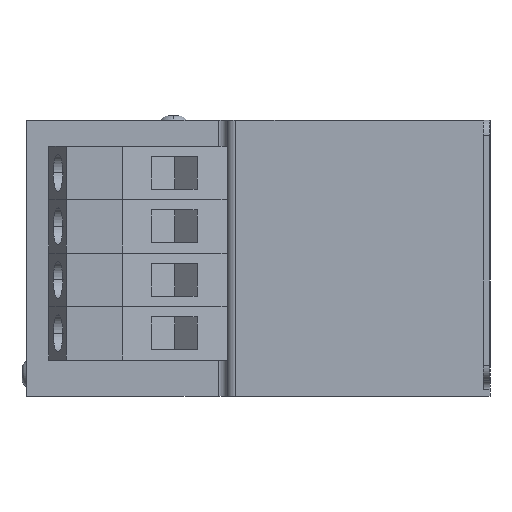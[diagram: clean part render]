
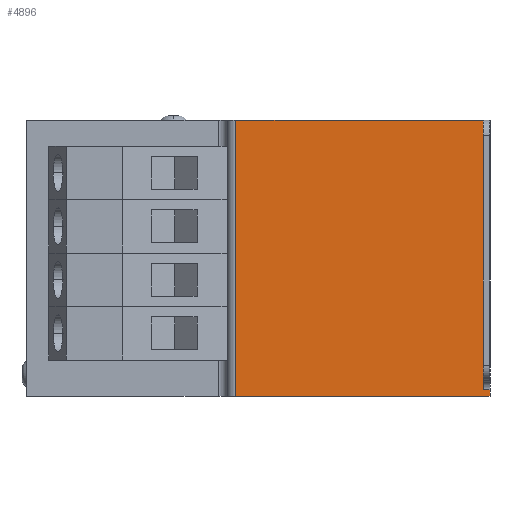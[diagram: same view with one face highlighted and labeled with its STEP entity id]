
A CAD part, left-side view. The second image highlights one B-rep face of the part: STEP entity #4896.
In plain terms, the highlighted planar face has unit normal (-1, 0, 0).
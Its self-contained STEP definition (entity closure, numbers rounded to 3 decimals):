
#87 = DIRECTION ( 'NONE',  ( 1., 0., 0. ) ) ;
#169 = LINE ( 'NONE', #5726, #3241 ) ;
#242 = DIRECTION ( 'NONE',  ( 0., 1., 0. ) ) ;
#274 = LINE ( 'NONE', #3539, #6993 ) ;
#609 = CARTESIAN_POINT ( 'NONE',  ( -75.5, 57., -31. ) ) ;
#792 = LINE ( 'NONE', #4553, #2272 ) ;
#884 = VECTOR ( 'NONE', #6988, 1000. ) ;
#923 = VERTEX_POINT ( 'NONE', #5021 ) ;
#929 = VECTOR ( 'NONE', #3488, 1000. ) ;
#944 = CARTESIAN_POINT ( 'NONE',  ( -75.5, 1.5, 31. ) ) ;
#1078 = ORIENTED_EDGE ( 'NONE', *, *, #3387, .T. ) ;
#1105 = CARTESIAN_POINT ( 'NONE',  ( -75.5, 57., 31. ) ) ;
#1340 = CARTESIAN_POINT ( 'NONE',  ( -75.5, 1.5, -29.5 ) ) ;
#1386 = ORIENTED_EDGE ( 'NONE', *, *, #3980, .F. ) ;
#1570 = VERTEX_POINT ( 'NONE', #6545 ) ;
#1604 = VERTEX_POINT ( 'NONE', #1105 ) ;
#1745 = FACE_OUTER_BOUND ( 'NONE', #4275, .T. ) ;
#1842 = DIRECTION ( 'NONE',  ( 0., 0., -1. ) ) ;
#1915 = ORIENTED_EDGE ( 'NONE', *, *, #6610, .F. ) ;
#2083 = EDGE_CURVE ( 'NONE', #1604, #6475, #5102, .T. ) ;
#2245 = PLANE ( 'NONE',  #6537 ) ;
#2272 = VECTOR ( 'NONE', #4585, 1000. ) ;
#2488 = CARTESIAN_POINT ( 'NONE',  ( -75.5, 57., -31. ) ) ;
#3241 = VECTOR ( 'NONE', #6791, 1000. ) ;
#3387 = EDGE_CURVE ( 'NONE', #4423, #1604, #274, .T. ) ;
#3488 = DIRECTION ( 'NONE',  ( 0., 1., 0. ) ) ;
#3539 = CARTESIAN_POINT ( 'NONE',  ( -75.5, 1.5, 31. ) ) ;
#3625 = CARTESIAN_POINT ( 'NONE',  ( -75.5, 0., -29.5 ) ) ;
#3691 = LINE ( 'NONE', #5841, #884 ) ;
#3854 = ORIENTED_EDGE ( 'NONE', *, *, #5809, .T. ) ;
#3885 = DIRECTION ( 'NONE',  ( 0., 0., -1. ) ) ;
#3980 = EDGE_CURVE ( 'NONE', #1570, #6475, #3691, .T. ) ;
#3996 = VERTEX_POINT ( 'NONE', #3625 ) ;
#4253 = EDGE_CURVE ( 'NONE', #923, #4423, #169, .T. ) ;
#4275 = EDGE_LOOP ( 'NONE', ( #1078, #5602, #1386, #1915, #3854, #4555 ) ) ;
#4423 = VERTEX_POINT ( 'NONE', #944 ) ;
#4553 = CARTESIAN_POINT ( 'NONE',  ( -75.5, 0., -31. ) ) ;
#4555 = ORIENTED_EDGE ( 'NONE', *, *, #4253, .T. ) ;
#4585 = DIRECTION ( 'NONE',  ( 0., 0., -1. ) ) ;
#4896 = ADVANCED_FACE ( 'NONE', ( #1745 ), #2245, .F. ) ;
#5021 = CARTESIAN_POINT ( 'NONE',  ( -75.5, 1.5, -29.5 ) ) ;
#5102 = LINE ( 'NONE', #2488, #6154 ) ;
#5171 = LINE ( 'NONE', #1340, #929 ) ;
#5602 = ORIENTED_EDGE ( 'NONE', *, *, #2083, .T. ) ;
#5726 = CARTESIAN_POINT ( 'NONE',  ( -75.5, 1.5, -31. ) ) ;
#5809 = EDGE_CURVE ( 'NONE', #3996, #923, #5171, .T. ) ;
#5841 = CARTESIAN_POINT ( 'NONE',  ( -75.5, 1.5, -31. ) ) ;
#6154 = VECTOR ( 'NONE', #1842, 1000. ) ;
#6475 = VERTEX_POINT ( 'NONE', #609 ) ;
#6537 = AXIS2_PLACEMENT_3D ( 'NONE', #6567, #87, #3885 ) ;
#6545 = CARTESIAN_POINT ( 'NONE',  ( -75.5, 0., -31. ) ) ;
#6567 = CARTESIAN_POINT ( 'NONE',  ( -75.5, 1.5, -31. ) ) ;
#6610 = EDGE_CURVE ( 'NONE', #3996, #1570, #792, .T. ) ;
#6791 = DIRECTION ( 'NONE',  ( 0., 0., 1. ) ) ;
#6988 = DIRECTION ( 'NONE',  ( 0., 1., 0. ) ) ;
#6993 = VECTOR ( 'NONE', #242, 1000. ) ;
